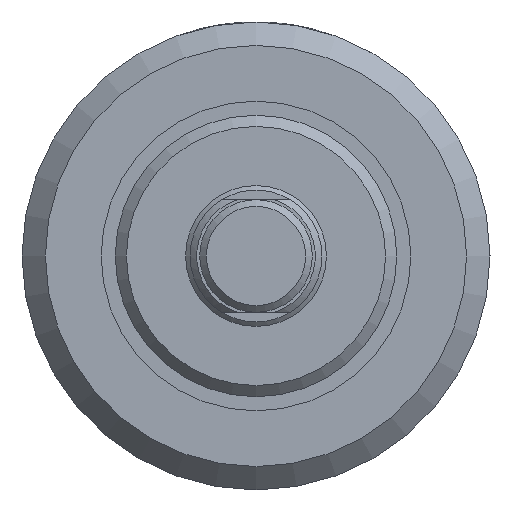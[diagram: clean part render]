
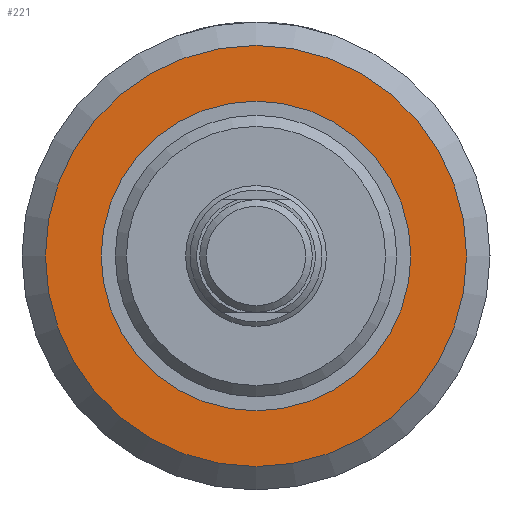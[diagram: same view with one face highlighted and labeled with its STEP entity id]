
A CAD part, left-side view. The second image highlights one B-rep face of the part: STEP entity #221.
In plain terms, the highlighted planar face has unit normal (-1, 0, 0).
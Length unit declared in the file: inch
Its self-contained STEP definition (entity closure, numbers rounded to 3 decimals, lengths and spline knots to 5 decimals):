
#221 = ADVANCED_FACE( '', ( #465, #466 ), #467, .F. );
#465 = FACE_OUTER_BOUND( '', #719, .T. );
#466 = FACE_BOUND( '', #720, .T. );
#467 = PLANE( '', #721 );
#719 = EDGE_LOOP( '', ( #1107 ) );
#720 = EDGE_LOOP( '', ( #1108 ) );
#721 = AXIS2_PLACEMENT_3D( '', #1109, #1110, #1111 );
#1107 = ORIENTED_EDGE( '', *, *, #1376, .F. );
#1108 = ORIENTED_EDGE( '', *, *, #1360, .T. );
#1109 = CARTESIAN_POINT( '', ( 0.813, 0.6875, 0. ) );
#1110 = DIRECTION( '', ( 1., 0., 0. ) );
#1111 = DIRECTION( '', ( 0., 0., -1. ) );
#1360 = EDGE_CURVE( '', #1586, #1586, #1587, .T. );
#1376 = EDGE_CURVE( '', #1607, #1607, #1608, .T. );
#1586 = VERTEX_POINT( '', #2047 );
#1587 = CIRCLE( '', #2048, 0.6875 );
#1607 = VERTEX_POINT( '', #2078 );
#1608 = CIRCLE( '', #2079, 0.9351 );
#2047 = CARTESIAN_POINT( '', ( 0.813, 0., -0.6875 ) );
#2048 = AXIS2_PLACEMENT_3D( '', #2275, #2276, #2277 );
#2078 = CARTESIAN_POINT( '', ( 0.813, 0., -0.9351 ) );
#2079 = AXIS2_PLACEMENT_3D( '', #2291, #2292, #2293 );
#2275 = CARTESIAN_POINT( '', ( 0.813, 0., 0. ) );
#2276 = DIRECTION( '', ( 1., 0., 0. ) );
#2277 = DIRECTION( '', ( 0., 0., -1. ) );
#2291 = CARTESIAN_POINT( '', ( 0.813, 0., 0. ) );
#2292 = DIRECTION( '', ( 1., 0., 0. ) );
#2293 = DIRECTION( '', ( 0., 0., -1. ) );
